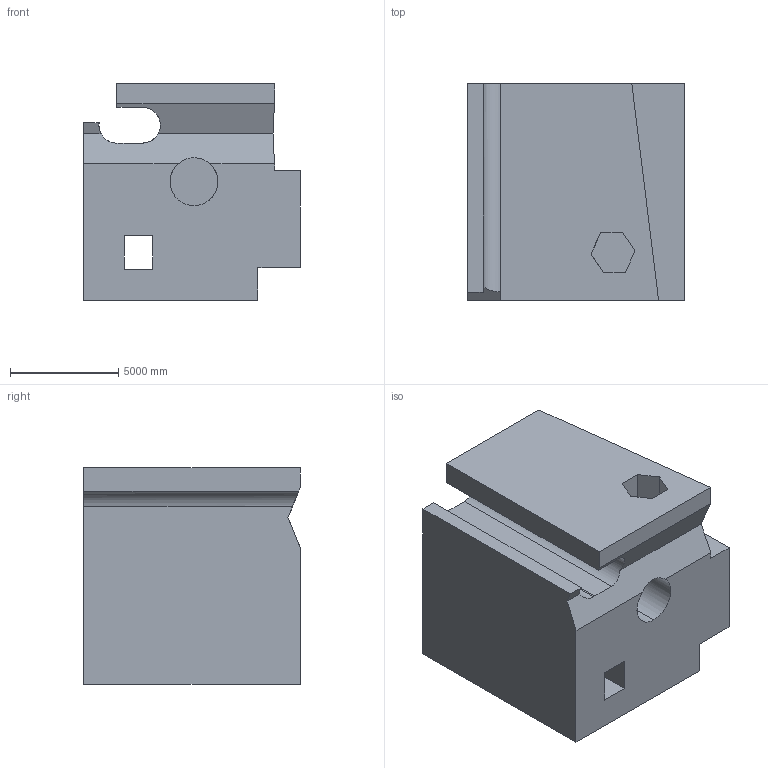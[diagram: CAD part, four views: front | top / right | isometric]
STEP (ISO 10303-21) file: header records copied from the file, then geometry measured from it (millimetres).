
FILE_DESCRIPTION (( 'STEP AP203' ), '1' );
FILE_NAME ('1761.STEP', '2022-08-19T12:40:34', ( 'user' ), ( '' ), 'SwSTEP 2.0', 'SolidWorks 2021', '' );
FILE_SCHEMA (( 'CONFIG_CONTROL_DESIGN' ));
Length unit declared in the file: centimetre
Products named in the file (1): 1761
Bounding box: 10000 x 10000 x 10000 mm (x, y, z)
Volume: 754900161019.4 mm3; surface area: 766360786.7 mm2
Topology: 1 solids, 1 shells, 36 faces, 102 edges, 68 vertices
Faces by surface type: plane 31, cylinder 5
Entity records: 1239 total; most frequent: CARTESIAN_POINT 237, ORIENTED_EDGE 204, DIRECTION 174, EDGE_CURVE 102, LINE 84, VECTOR 84, VERTEX_POINT 68, AXIS2_PLACEMENT_3D 45
